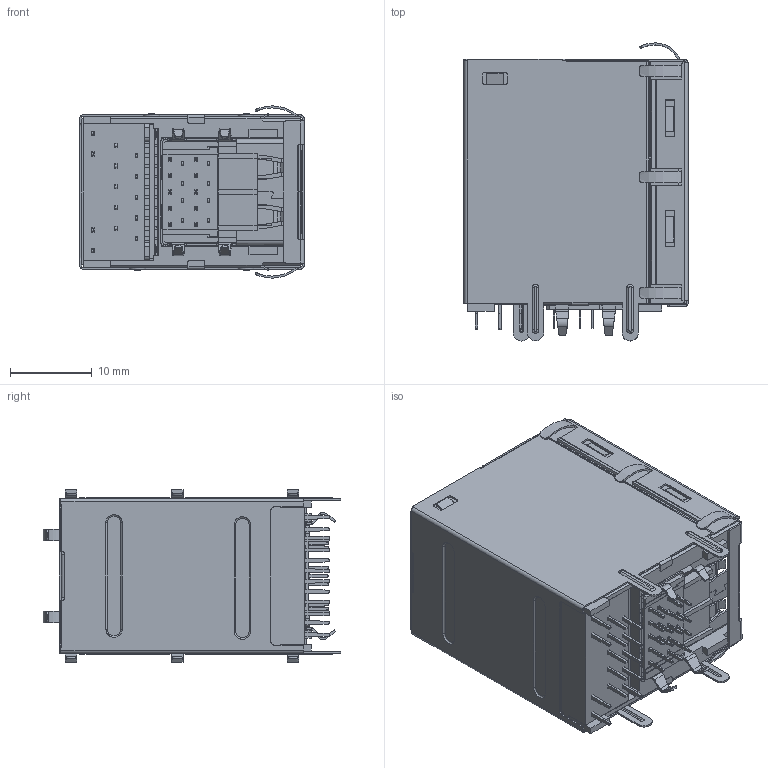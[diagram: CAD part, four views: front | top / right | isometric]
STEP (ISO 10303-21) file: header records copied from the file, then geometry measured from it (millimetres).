
FILE_DESCRIPTION((''),'2;1');
FILE_NAME('CZT25H-395','2025-07-19T03:43:15',('admin'),(''),'CREO PARAMETRIC BY PTC INC, 2020053','CREO PARAMETRIC BY PTC INC, 2020053','');
FILE_SCHEMA(('CONFIG_CONTROL_DESIGN'));
Products named in the file (1): CZT25H-395
Bounding box: 27.46 x 36.5 x 21.1 mm (x, y, z)
Volume: 9178.3 mm3; surface area: 21595.3 mm2
Topology: 12 solids, 26 shells, 6106 faces, 17858 edges, 11626 vertices
Faces by surface type: plane 4421, cylinder 1582, bspline 55, torus 31, cone 11, extrusion 4, revolution 2
Entity records: 203555 total; most frequent: CARTESIAN_POINT 40313, ORIENTED_EDGE 35577, DIRECTION 32187, EDGE_CURVE 17846, VECTOR 14191, LINE 14187, VERTEX_POINT 11629, AXIS2_PLACEMENT_3D 8997
